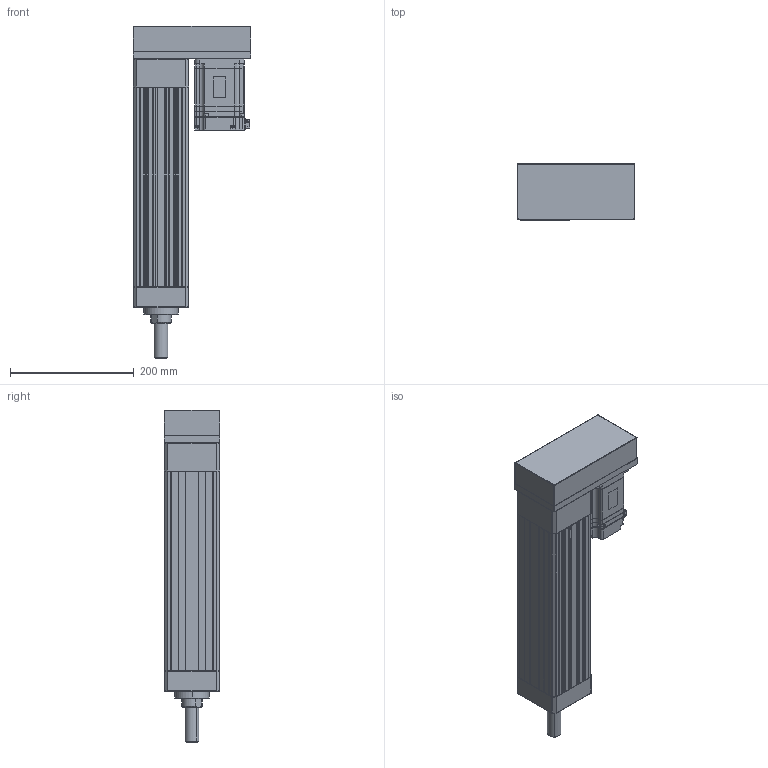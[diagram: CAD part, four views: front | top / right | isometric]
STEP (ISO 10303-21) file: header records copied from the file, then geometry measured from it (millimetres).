
FILE_DESCRIPTION (( 'STEP AP203' ), '1' );
FILE_NAME ('ANS090R-P200-05(10)(20)-W75-M.STEP', '2019-03-02T10:15:17', ( 'user' ), ( '' ), 'SwSTEP 2.0', 'SolidWorks 2013', '' );
FILE_SCHEMA (( 'CONFIG_CONTROL_DESIGN' ));
Length unit declared in the file: millimetre
Products named in the file (4): ANS090R P200 VER2; SGMJV_08A_A21; ANS090 ROD ST200-M; ANS090R-P200-05(10)(20)-W75-M
Assembly tree (3 placements, depth 2):
  ANS090R-P200-05(10)(20)-W75-M
    ANS090R P200 VER2
    SGMJV_08A_A21
    ANS090 ROD ST200-M
Bounding box: 190 x 90 x 536 mm (x, y, z)
Volume: 2758877 mm3; surface area: 507353.2 mm2
Topology: 3 solids, 3 shells, 1078 faces, 2857 edges, 1838 vertices
Faces by surface type: plane 646, cylinder 346, cone 74, bspline 8, sphere 4
Entity records: 33969 total; most frequent: CARTESIAN_POINT 6617, ORIENTED_EDGE 5674, DIRECTION 5555, EDGE_CURVE 2837, VECTOR 1987, LINE 1987, VERTEX_POINT 1838, AXIS2_PLACEMENT_3D 1784
